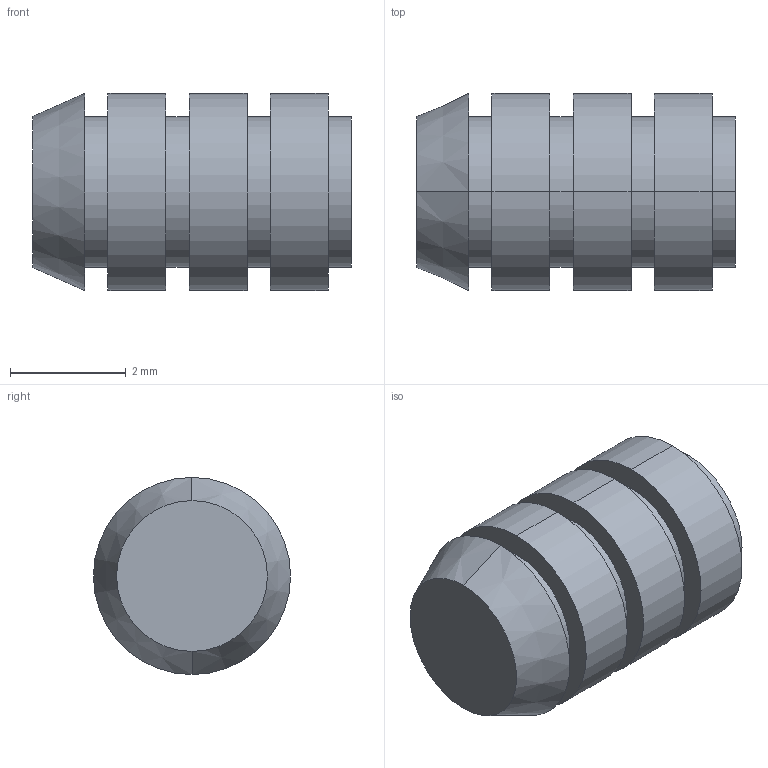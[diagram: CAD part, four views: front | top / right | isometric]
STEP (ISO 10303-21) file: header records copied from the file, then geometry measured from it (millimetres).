
FILE_DESCRIPTION (( 'STEP AP203' ), '1' );
FILE_NAME ('FSUK-BLD-M02-S.STEP', '2021-04-15T19:24:02', ( '' ), ( '' ), 'SwSTEP 2.0', 'SolidWorks 2021', '' );
FILE_SCHEMA (( 'CONFIG_CONTROL_DESIGN' ));
Length unit declared in the file: millimetre
Products named in the file (1): FSUK-BLD-M02-S
Bounding box: 5.5 x 3.4 x 3.4 mm (x, y, z)
Volume: 29.9 mm3; surface area: 116.4 mm2
Topology: 1 solids, 1 shells, 33 faces, 66 edges, 41 vertices
Faces by surface type: cylinder 18, plane 9, cone 6
Entity records: 935 total; most frequent: DIRECTION 172, CARTESIAN_POINT 139, ORIENTED_EDGE 128, AXIS2_PLACEMENT_3D 74, EDGE_CURVE 64, EDGE_LOOP 41, VERTEX_POINT 41, CIRCLE 40
